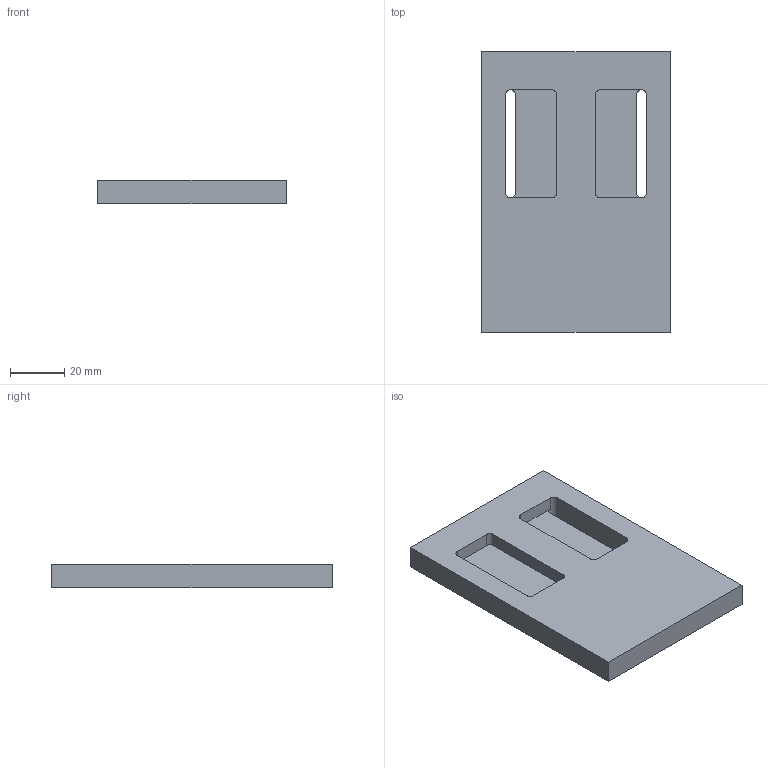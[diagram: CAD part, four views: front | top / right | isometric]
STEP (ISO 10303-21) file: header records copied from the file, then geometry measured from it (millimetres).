
FILE_DESCRIPTION (( 'STEP AP214' ), '1' );
FILE_NAME ('Front.STEP', '2015-04-16T23:58:45', ( '' ), ( '' ), 'SwSTEP 2.0', 'SolidWorks 2012', '' );
FILE_SCHEMA (( 'AUTOMOTIVE_DESIGN' ));
Length unit declared in the file: inch
Products named in the file (1): Front
Bounding box: 69.85 x 104.01 x 8.76 mm (x, y, z)
Volume: 54854.9 mm3; surface area: 18768.7 mm2
Topology: 1 solids, 1 shells, 26 faces, 72 edges, 48 vertices
Faces by surface type: plane 18, cylinder 8
Entity records: 884 total; most frequent: CARTESIAN_POINT 147, DIRECTION 146, ORIENTED_EDGE 144, EDGE_CURVE 72, LINE 52, VECTOR 52, VERTEX_POINT 48, AXIS2_PLACEMENT_3D 47
